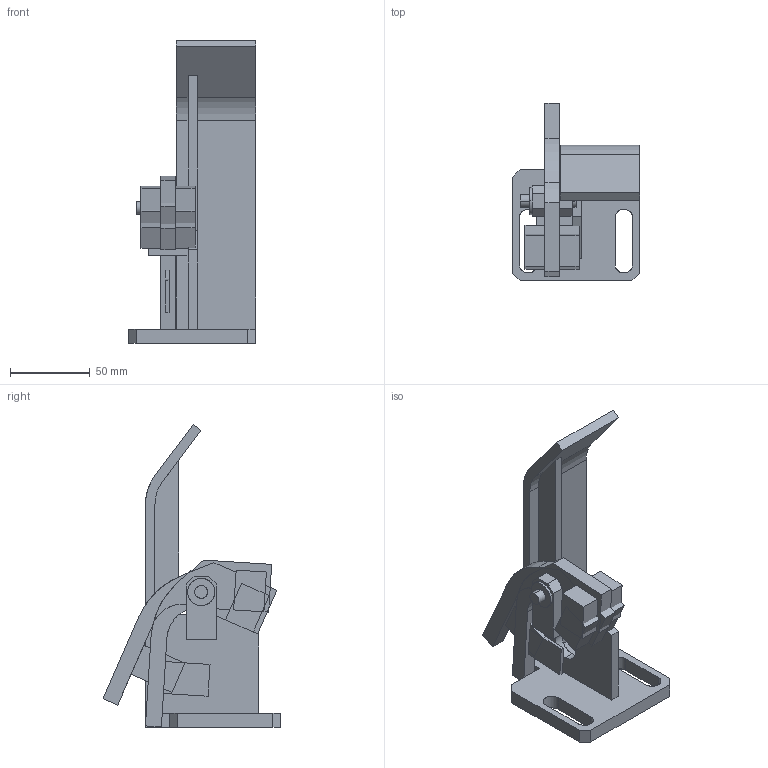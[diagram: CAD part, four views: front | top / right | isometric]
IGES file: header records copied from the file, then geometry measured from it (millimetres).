
Global section: file name: E:\UnigraphicsGraphicData\MISUMI_PRESS-PARTS\IGES\3d_pacobn-l150-m10_04930_r00.igs; native system: NX V5.0; preprocessor: UGS NX IGES V5.0; author: MISUMI; date: 20110105.162215; units: millimetre
Bounding box: 80 x 111.58 x 190 mm (x, y, z)
Surface area: 74499.9 mm2 (no closed solid volume)
Topology: 0 solids, 0 shells, 112 faces, 727 edges, 727 vertices
Faces by surface type: bspline 112
